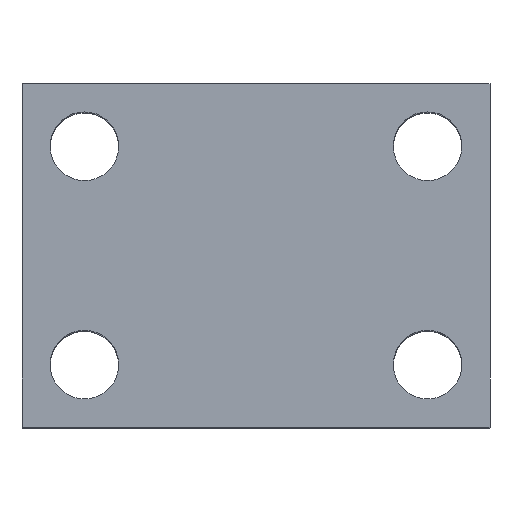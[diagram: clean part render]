
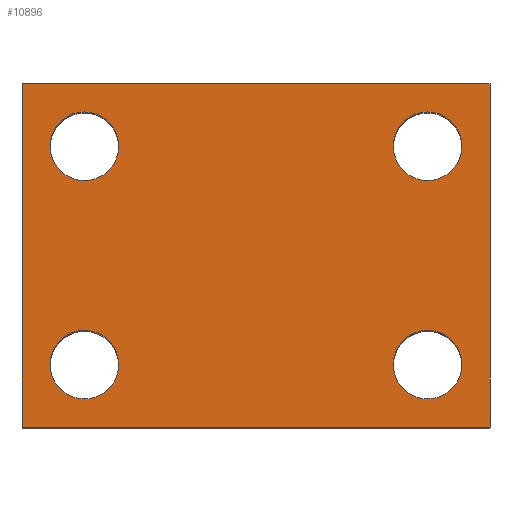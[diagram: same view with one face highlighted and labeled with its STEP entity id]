
A CAD part, top view. The second image highlights one B-rep face of the part: STEP entity #10896.
In plain terms, the highlighted planar face has unit normal (0, 0, 1).
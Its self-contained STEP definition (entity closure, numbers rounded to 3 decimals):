
#52 = VECTOR ( 'NONE', #13378, 1000. ) ;
#70 = VECTOR ( 'NONE', #591, 1000. ) ;
#184 = DIRECTION ( 'NONE',  ( 0., 0., -1. ) ) ;
#299 = EDGE_CURVE ( 'NONE', #12313, #9666, #14053, .T. ) ;
#591 = DIRECTION ( 'NONE',  ( 0., -1., 0. ) ) ;
#885 = CARTESIAN_POINT ( 'NONE',  ( 37.5, 0., 47.5 ) ) ;
#1068 = VERTEX_POINT ( 'NONE', #15161 ) ;
#1221 = AXIS2_PLACEMENT_3D ( 'NONE', #11640, #3488, #13037 ) ;
#1289 = CIRCLE ( 'NONE', #8208, 5.5 ) ;
#1541 = EDGE_CURVE ( 'NONE', #16972, #15601, #17082, .T. ) ;
#1584 = CARTESIAN_POINT ( 'NONE',  ( -33., 45., 47.5 ) ) ;
#1845 = CIRCLE ( 'NONE', #13639, 5.5 ) ;
#1877 = DIRECTION ( 'NONE',  ( 1., 0., 0. ) ) ;
#2081 = CARTESIAN_POINT ( 'NONE',  ( -37.5, 55., 47.5 ) ) ;
#2127 = CARTESIAN_POINT ( 'NONE',  ( -37.5, 0., 47.5 ) ) ;
#2128 = ORIENTED_EDGE ( 'NONE', *, *, #6937, .T. ) ;
#2517 = EDGE_LOOP ( 'NONE', ( #2128, #12849 ) ) ;
#3397 = DIRECTION ( 'NONE',  ( -1., 0., 0. ) ) ;
#3488 = DIRECTION ( 'NONE',  ( 0., 0., -1. ) ) ;
#3612 = ORIENTED_EDGE ( 'NONE', *, *, #12171, .F. ) ;
#3804 = FACE_OUTER_BOUND ( 'NONE', #9530, .T. ) ;
#3890 = DIRECTION ( 'NONE',  ( 0., 0., -1. ) ) ;
#4692 = VERTEX_POINT ( 'NONE', #1584 ) ;
#4951 = VERTEX_POINT ( 'NONE', #14710 ) ;
#5474 = ORIENTED_EDGE ( 'NONE', *, *, #14523, .T. ) ;
#5821 = DIRECTION ( 'NONE',  ( 0., 0., -1. ) ) ;
#6023 = CIRCLE ( 'NONE', #9850, 5.5 ) ;
#6155 = DIRECTION ( 'NONE',  ( 0., 0., -1. ) ) ;
#6420 = CARTESIAN_POINT ( 'NONE',  ( -37.5, 55., 47.5 ) ) ;
#6451 = EDGE_LOOP ( 'NONE', ( #5474, #16906 ) ) ;
#6502 = VERTEX_POINT ( 'NONE', #13450 ) ;
#6713 = CIRCLE ( 'NONE', #11063, 5.5 ) ;
#6847 = CARTESIAN_POINT ( 'NONE',  ( 27.5, 10., 47.5 ) ) ;
#6937 = EDGE_CURVE ( 'NONE', #9666, #12313, #1289, .T. ) ;
#7034 = CARTESIAN_POINT ( 'NONE',  ( 27.5, 45., 47.5 ) ) ;
#7116 = ORIENTED_EDGE ( 'NONE', *, *, #9803, .T. ) ;
#7238 = LINE ( 'NONE', #10172, #70 ) ;
#7312 = AXIS2_PLACEMENT_3D ( 'NONE', #14363, #6155, #15774 ) ;
#7426 = FACE_BOUND ( 'NONE', #14354, .T. ) ;
#7737 = CARTESIAN_POINT ( 'NONE',  ( 27.5, 45., 47.5 ) ) ;
#8208 = AXIS2_PLACEMENT_3D ( 'NONE', #8283, #184, #9657 ) ;
#8216 = DIRECTION ( 'NONE',  ( -1., 0., 0. ) ) ;
#8283 = CARTESIAN_POINT ( 'NONE',  ( -27.5, 10., 47.5 ) ) ;
#8388 = DIRECTION ( 'NONE',  ( -1., 0., 0. ) ) ;
#8655 = CARTESIAN_POINT ( 'NONE',  ( -33., 10., 47.5 ) ) ;
#9042 = CIRCLE ( 'NONE', #15483, 5.5 ) ;
#9087 = DIRECTION ( 'NONE',  ( -1., 0., 0. ) ) ;
#9318 = VECTOR ( 'NONE', #1877, 1000. ) ;
#9530 = EDGE_LOOP ( 'NONE', ( #11100, #12280, #3612, #12864 ) ) ;
#9657 = DIRECTION ( 'NONE',  ( -1., 0., 0. ) ) ;
#9666 = VERTEX_POINT ( 'NONE', #8655 ) ;
#9803 = EDGE_CURVE ( 'NONE', #13387, #12499, #6713, .T. ) ;
#9850 = AXIS2_PLACEMENT_3D ( 'NONE', #6847, #16473, #8216 ) ;
#9970 = EDGE_LOOP ( 'NONE', ( #14779, #10756 ) ) ;
#10077 = CARTESIAN_POINT ( 'NONE',  ( -22., 10., 47.5 ) ) ;
#10172 = CARTESIAN_POINT ( 'NONE',  ( 37.5, 55., 47.5 ) ) ;
#10445 = AXIS2_PLACEMENT_3D ( 'NONE', #14041, #5821, #15439 ) ;
#10556 = EDGE_CURVE ( 'NONE', #13477, #16972, #11692, .T. ) ;
#10756 = ORIENTED_EDGE ( 'NONE', *, *, #11250, .T. ) ;
#10896 = ADVANCED_FACE ( 'NONE', ( #15585, #11038, #14707, #7426, #3804 ), #17000, .F. ) ;
#10928 = ORIENTED_EDGE ( 'NONE', *, *, #15407, .T. ) ;
#10995 = CARTESIAN_POINT ( 'NONE',  ( 22., 45., 47.5 ) ) ;
#11038 = FACE_BOUND ( 'NONE', #2517, .T. ) ;
#11063 = AXIS2_PLACEMENT_3D ( 'NONE', #7737, #17364, #9087 ) ;
#11100 = ORIENTED_EDGE ( 'NONE', *, *, #1541, .T. ) ;
#11217 = LINE ( 'NONE', #6420, #15337 ) ;
#11250 = EDGE_CURVE ( 'NONE', #6502, #4692, #11674, .T. ) ;
#11525 = CARTESIAN_POINT ( 'NONE',  ( -37.5, 0., 47.5 ) ) ;
#11541 = DIRECTION ( 'NONE',  ( 0., 0., -1. ) ) ;
#11640 = CARTESIAN_POINT ( 'NONE',  ( 27.5, 10., 47.5 ) ) ;
#11674 = CIRCLE ( 'NONE', #7312, 5.5 ) ;
#11692 = LINE ( 'NONE', #16127, #52 ) ;
#12046 = CARTESIAN_POINT ( 'NONE',  ( -27.5, 45., 47.5 ) ) ;
#12171 = EDGE_CURVE ( 'NONE', #13477, #1068, #11217, .T. ) ;
#12280 = ORIENTED_EDGE ( 'NONE', *, *, #16418, .F. ) ;
#12313 = VERTEX_POINT ( 'NONE', #10077 ) ;
#12499 = VERTEX_POINT ( 'NONE', #13513 ) ;
#12849 = ORIENTED_EDGE ( 'NONE', *, *, #299, .T. ) ;
#12864 = ORIENTED_EDGE ( 'NONE', *, *, #10556, .T. ) ;
#13037 = DIRECTION ( 'NONE',  ( -1., 0., 0. ) ) ;
#13378 = DIRECTION ( 'NONE',  ( 0., -1., 0. ) ) ;
#13387 = VERTEX_POINT ( 'NONE', #10995 ) ;
#13435 = DIRECTION ( 'NONE',  ( -1., 0., 0. ) ) ;
#13450 = CARTESIAN_POINT ( 'NONE',  ( -22., 45., 47.5 ) ) ;
#13477 = VERTEX_POINT ( 'NONE', #15404 ) ;
#13513 = CARTESIAN_POINT ( 'NONE',  ( 33., 45., 47.5 ) ) ;
#13639 = AXIS2_PLACEMENT_3D ( 'NONE', #12046, #3890, #13435 ) ;
#14041 = CARTESIAN_POINT ( 'NONE',  ( -27.5, 10., 47.5 ) ) ;
#14053 = CIRCLE ( 'NONE', #10445, 5.5 ) ;
#14354 = EDGE_LOOP ( 'NONE', ( #7116, #10928 ) ) ;
#14363 = CARTESIAN_POINT ( 'NONE',  ( -27.5, 45., 47.5 ) ) ;
#14523 = EDGE_CURVE ( 'NONE', #14705, #4951, #15963, .T. ) ;
#14705 = VERTEX_POINT ( 'NONE', #17475 ) ;
#14707 = FACE_BOUND ( 'NONE', #6451, .T. ) ;
#14710 = CARTESIAN_POINT ( 'NONE',  ( 33., 10., 47.5 ) ) ;
#14779 = ORIENTED_EDGE ( 'NONE', *, *, #15308, .T. ) ;
#15161 = CARTESIAN_POINT ( 'NONE',  ( 37.5, 55., 47.5 ) ) ;
#15308 = EDGE_CURVE ( 'NONE', #4692, #6502, #1845, .T. ) ;
#15337 = VECTOR ( 'NONE', #16040, 1000. ) ;
#15404 = CARTESIAN_POINT ( 'NONE',  ( -37.5, 55., 47.5 ) ) ;
#15407 = EDGE_CURVE ( 'NONE', #12499, #13387, #9042, .T. ) ;
#15439 = DIRECTION ( 'NONE',  ( -1., 0., 0. ) ) ;
#15483 = AXIS2_PLACEMENT_3D ( 'NONE', #7034, #16658, #8388 ) ;
#15585 = FACE_BOUND ( 'NONE', #9970, .T. ) ;
#15601 = VERTEX_POINT ( 'NONE', #885 ) ;
#15762 = EDGE_CURVE ( 'NONE', #4951, #14705, #6023, .T. ) ;
#15774 = DIRECTION ( 'NONE',  ( -1., 0., 0. ) ) ;
#15951 = AXIS2_PLACEMENT_3D ( 'NONE', #2081, #11541, #3397 ) ;
#15963 = CIRCLE ( 'NONE', #1221, 5.5 ) ;
#16040 = DIRECTION ( 'NONE',  ( 1., 0., 0. ) ) ;
#16127 = CARTESIAN_POINT ( 'NONE',  ( -37.5, 55., 47.5 ) ) ;
#16418 = EDGE_CURVE ( 'NONE', #1068, #15601, #7238, .T. ) ;
#16473 = DIRECTION ( 'NONE',  ( 0., 0., -1. ) ) ;
#16658 = DIRECTION ( 'NONE',  ( 0., 0., -1. ) ) ;
#16906 = ORIENTED_EDGE ( 'NONE', *, *, #15762, .T. ) ;
#16972 = VERTEX_POINT ( 'NONE', #2127 ) ;
#17000 = PLANE ( 'NONE',  #15951 ) ;
#17082 = LINE ( 'NONE', #11525, #9318 ) ;
#17364 = DIRECTION ( 'NONE',  ( 0., 0., -1. ) ) ;
#17475 = CARTESIAN_POINT ( 'NONE',  ( 22., 10., 47.5 ) ) ;
